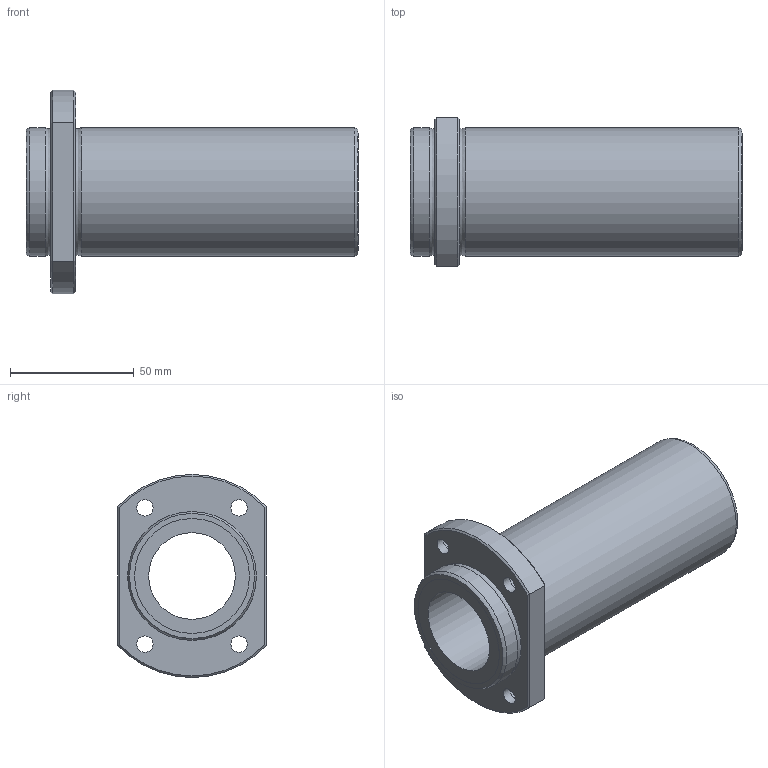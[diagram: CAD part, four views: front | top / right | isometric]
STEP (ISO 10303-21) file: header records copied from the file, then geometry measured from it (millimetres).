
FILE_DESCRIPTION((''),'2;1');
FILE_NAME('D:\製品 (図面)\カタログ用3D\リニアベアリング関連\STEP形式\LFDTB\LFDTB35B.stp','2010-06-03T09:53:56',('Tsuchiya'),(''),'Autodesk Inventor 10','Autodesk Inventor 10','');
FILE_SCHEMA(('AUTOMOTIVE_DESIGN { 1 0 10303 214 1 1 1 1 }'));
Length unit declared in the file: millimetre
Products named in the file (1): LFDTB35B
Bounding box: 134 x 60 x 82 mm (x, y, z)
Volume: 175140.7 mm3; surface area: 45068.3 mm2
Topology: 1 solids, 1 shells, 39 faces, 75 edges, 46 vertices
Faces by surface type: bspline 14, plane 12, cylinder 7, cone 4, torus 2
Full cylindrical faces by diameter (mm): 35 x1, 46.4 x2, 52 x2
Entity records: 1177 total; most frequent: CARTESIAN_POINT 440, DIRECTION 140, ORIENTED_EDGE 116, EDGE_LOOP 74, AXIS2_PLACEMENT_3D 64, EDGE_CURVE 58, VERTEX_POINT 46, FACE_OUTER_BOUND 39
